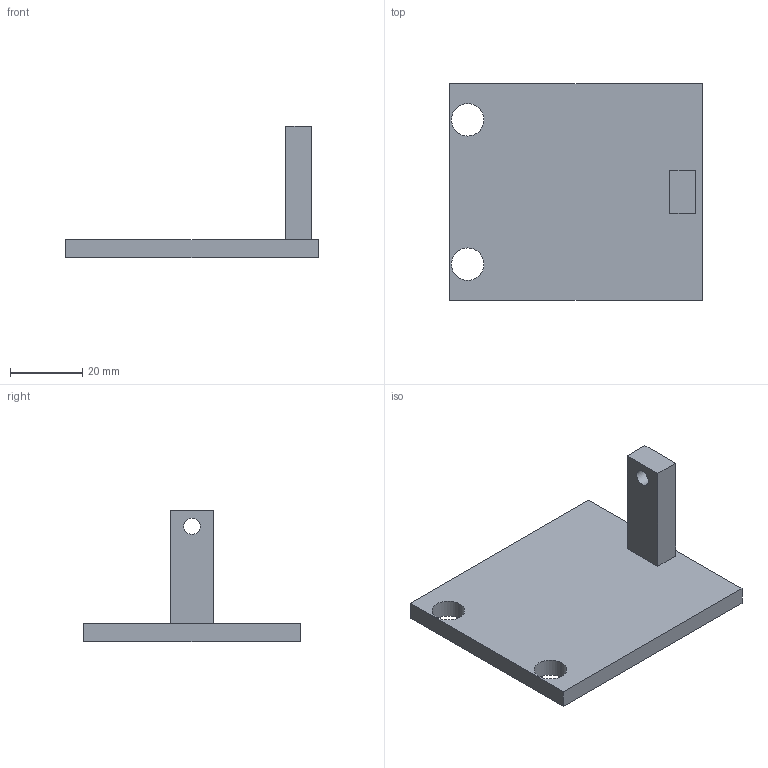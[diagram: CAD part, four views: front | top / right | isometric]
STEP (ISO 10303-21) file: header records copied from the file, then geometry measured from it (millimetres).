
FILE_DESCRIPTION(('FreeCAD Model'),'2;1');
FILE_NAME('Open CASCADE Shape Model','2026-10-30T14:44:42',('FreeCAD'),( 'FreeCAD'),'Open CASCADE STEP processor 7.8','FreeCAD','Unknown');
FILE_SCHEMA(('AUTOMOTIVE_DESIGN { 1 0 10303 214 1 1 1 1 }'));
Length unit declared in the file: millimetre
Products named in the file (1): Open CASCADE STEP translator 7.8 7
Bounding box: 70 x 60 x 36.5 mm (x, y, z)
Volume: 22898.5 mm3; surface area: 10992.4 mm2
Topology: 1 solids, 1 shells, 14 faces, 33 edges, 22 vertices
Faces by surface type: plane 11, cylinder 3
Full cylindrical faces by diameter (mm): 4.5 x1, 9 x2
Entity records: 425 total; most frequent: CARTESIAN_POINT 70, DIRECTION 69, ORIENTED_EDGE 66, EDGE_CURVE 33, LINE 27, VECTOR 27, VERTEX_POINT 22, AXIS2_PLACEMENT_3D 21
